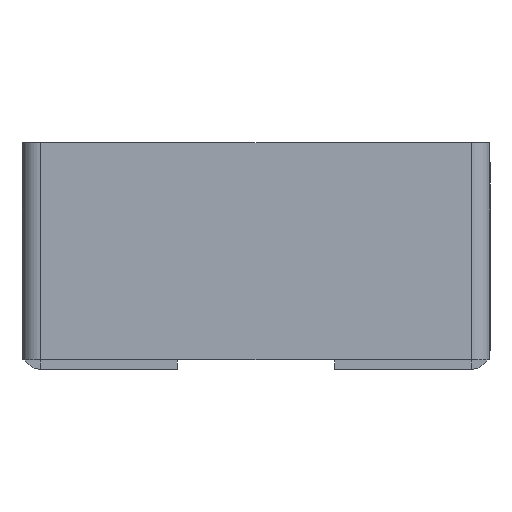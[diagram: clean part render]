
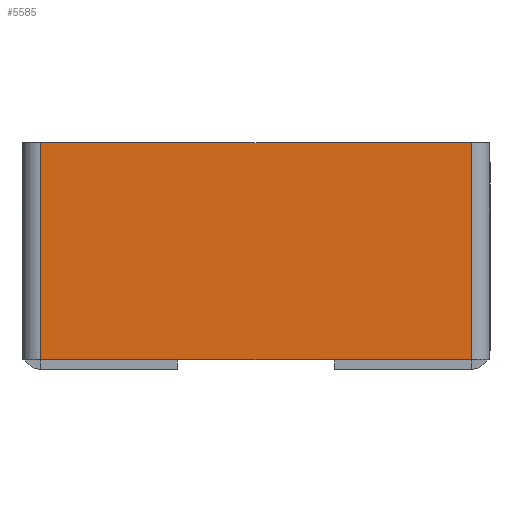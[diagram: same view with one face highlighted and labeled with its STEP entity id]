
A CAD part, front view. The second image highlights one B-rep face of the part: STEP entity #5585.
In plain terms, the highlighted planar face has unit normal (0, -1, 0).
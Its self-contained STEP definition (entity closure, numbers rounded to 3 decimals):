
#124 = CARTESIAN_POINT ( 'NONE',  ( -57.5, -2.5, 0. ) ) ;
#243 = EDGE_CURVE ( 'NONE', #5574, #4955, #6994, .T. ) ;
#360 = LINE ( 'NONE', #3432, #5479 ) ;
#761 = CARTESIAN_POINT ( 'NONE',  ( 57.5, -2.5, 0. ) ) ;
#811 = DIRECTION ( 'NONE',  ( 1., 0., 0. ) ) ;
#2259 = VECTOR ( 'NONE', #9717, 1000. ) ;
#3337 = PLANE ( 'NONE',  #8560 ) ;
#3432 = CARTESIAN_POINT ( 'NONE',  ( -57.5, -2.5, 0. ) ) ;
#3523 = ORIENTED_EDGE ( 'NONE', *, *, #243, .F. ) ;
#3857 = CARTESIAN_POINT ( 'NONE',  ( 57.5, -2.5, -58. ) ) ;
#4086 = DIRECTION ( 'NONE',  ( 0., 1., 0. ) ) ;
#4509 = ORIENTED_EDGE ( 'NONE', *, *, #6832, .F. ) ;
#4682 = EDGE_CURVE ( 'NONE', #9520, #4955, #360, .T. ) ;
#4955 = VERTEX_POINT ( 'NONE', #8147 ) ;
#5399 = CARTESIAN_POINT ( 'NONE',  ( -60., -2.5, -58. ) ) ;
#5402 = LINE ( 'NONE', #3857, #9720 ) ;
#5437 = VECTOR ( 'NONE', #811, 1000. ) ;
#5479 = VECTOR ( 'NONE', #5971, 1000. ) ;
#5574 = VERTEX_POINT ( 'NONE', #7408 ) ;
#5585 = ADVANCED_FACE ( 'NONE', ( #7933 ), #3337, .F. ) ;
#5702 = LINE ( 'NONE', #8450, #5437 ) ;
#5971 = DIRECTION ( 'NONE',  ( 0., 0., -1. ) ) ;
#6346 = EDGE_LOOP ( 'NONE', ( #6930, #3523, #6765, #4509 ) ) ;
#6601 = CARTESIAN_POINT ( 'NONE',  ( 0., -2.5, 0. ) ) ;
#6765 = ORIENTED_EDGE ( 'NONE', *, *, #8158, .T. ) ;
#6832 = EDGE_CURVE ( 'NONE', #9520, #9907, #5702, .T. ) ;
#6930 = ORIENTED_EDGE ( 'NONE', *, *, #4682, .T. ) ;
#6994 = LINE ( 'NONE', #5399, #2259 ) ;
#7408 = CARTESIAN_POINT ( 'NONE',  ( 57.5, -2.5, -58. ) ) ;
#7933 = FACE_OUTER_BOUND ( 'NONE', #6346, .T. ) ;
#8147 = CARTESIAN_POINT ( 'NONE',  ( -57.5, -2.5, -58. ) ) ;
#8158 = EDGE_CURVE ( 'NONE', #5574, #9907, #5402, .T. ) ;
#8450 = CARTESIAN_POINT ( 'NONE',  ( -60., -2.5, 0. ) ) ;
#8560 = AXIS2_PLACEMENT_3D ( 'NONE', #6601, #4086, #10764 ) ;
#9520 = VERTEX_POINT ( 'NONE', #124 ) ;
#9717 = DIRECTION ( 'NONE',  ( -1., 0., 0. ) ) ;
#9720 = VECTOR ( 'NONE', #9729, 1000. ) ;
#9729 = DIRECTION ( 'NONE',  ( 0., 0., 1. ) ) ;
#9907 = VERTEX_POINT ( 'NONE', #761 ) ;
#10764 = DIRECTION ( 'NONE',  ( 0., 0., 1. ) ) ;
